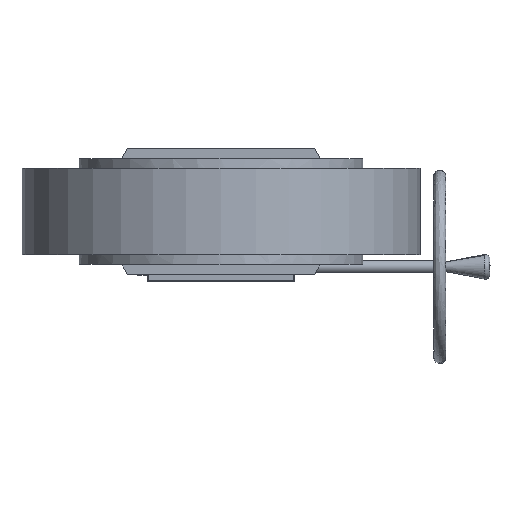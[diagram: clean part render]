
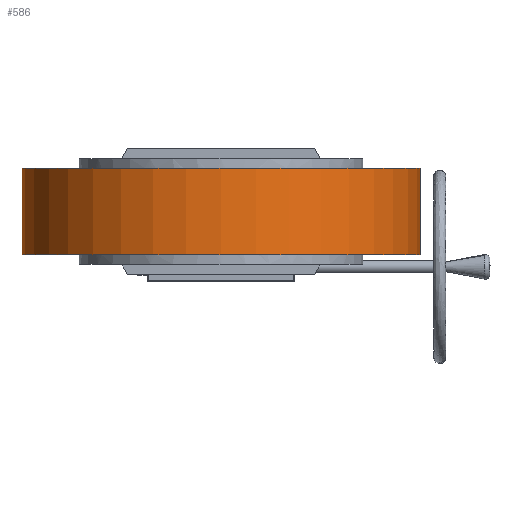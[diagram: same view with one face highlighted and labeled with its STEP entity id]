
A CAD part, front view. The second image highlights one B-rep face of the part: STEP entity #586.
In plain terms, the highlighted cylindrical face has radius 205.613 mm (diameter 411.226 mm), a partial arc.
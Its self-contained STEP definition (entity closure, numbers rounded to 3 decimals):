
#292 = DIRECTION ( 'NONE',  ( 0., 0., 1. ) ) ;
#293 = ORIENTED_EDGE ( 'NONE', *, *, #1024, .T. ) ;
#586 = ADVANCED_FACE ( 'NONE', ( #2008 ), #8651, .T. ) ;
#873 = CARTESIAN_POINT ( 'NONE',  ( 0., 0., 44.704 ) ) ;
#980 = CIRCLE ( 'NONE', #5316, 205.613 ) ;
#995 = VERTEX_POINT ( 'NONE', #13599 ) ;
#1024 = EDGE_CURVE ( 'NONE', #3940, #8512, #8133, .T. ) ;
#1174 = AXIS2_PLACEMENT_3D ( 'NONE', #7445, #5340, #12996 ) ;
#2008 = FACE_OUTER_BOUND ( 'NONE', #2449, .T. ) ;
#2290 = EDGE_CURVE ( 'NONE', #995, #5026, #10149, .T. ) ;
#2323 = VECTOR ( 'NONE', #13273, 1000. ) ;
#2449 = EDGE_LOOP ( 'NONE', ( #8465, #9219, #13920, #293 ) ) ;
#3534 = AXIS2_PLACEMENT_3D ( 'NONE', #873, #13962, #9420 ) ;
#3940 = VERTEX_POINT ( 'NONE', #14040 ) ;
#4007 = CARTESIAN_POINT ( 'NONE',  ( -102.489, 178.249, 44.704 ) ) ;
#4608 = CARTESIAN_POINT ( 'NONE',  ( -102.489, 178.249, -252.93 ) ) ;
#5026 = VERTEX_POINT ( 'NONE', #4007 ) ;
#5316 = AXIS2_PLACEMENT_3D ( 'NONE', #11367, #292, #12358 ) ;
#5340 = DIRECTION ( 'NONE',  ( 0., 0., -1. ) ) ;
#6760 = CARTESIAN_POINT ( 'NONE',  ( 102.489, 178.249, 44.704 ) ) ;
#6993 = EDGE_CURVE ( 'NONE', #5026, #8512, #7834, .T. ) ;
#7212 = CARTESIAN_POINT ( 'NONE',  ( 102.489, 178.249, -252.93 ) ) ;
#7445 = CARTESIAN_POINT ( 'NONE',  ( 0., 0., 44.704 ) ) ;
#7834 = CIRCLE ( 'NONE', #3534, 205.613 ) ;
#8133 = LINE ( 'NONE', #7212, #13344 ) ;
#8465 = ORIENTED_EDGE ( 'NONE', *, *, #6993, .F. ) ;
#8512 = VERTEX_POINT ( 'NONE', #6760 ) ;
#8651 = CYLINDRICAL_SURFACE ( 'NONE', #1174, 205.613 ) ;
#9219 = ORIENTED_EDGE ( 'NONE', *, *, #2290, .F. ) ;
#9270 = DIRECTION ( 'NONE',  ( 0., 0., 1. ) ) ;
#9420 = DIRECTION ( 'NONE',  ( 1., 0., 0. ) ) ;
#10149 = LINE ( 'NONE', #4608, #2323 ) ;
#10215 = EDGE_CURVE ( 'NONE', #995, #3940, #980, .T. ) ;
#11367 = CARTESIAN_POINT ( 'NONE',  ( 0., 0., -44.704 ) ) ;
#12358 = DIRECTION ( 'NONE',  ( 1., 0., 0. ) ) ;
#12996 = DIRECTION ( 'NONE',  ( -1., 0., 0. ) ) ;
#13273 = DIRECTION ( 'NONE',  ( 0., 0., 1. ) ) ;
#13344 = VECTOR ( 'NONE', #9270, 1000. ) ;
#13599 = CARTESIAN_POINT ( 'NONE',  ( -102.489, 178.249, -44.704 ) ) ;
#13920 = ORIENTED_EDGE ( 'NONE', *, *, #10215, .T. ) ;
#13962 = DIRECTION ( 'NONE',  ( 0., 0., 1. ) ) ;
#14040 = CARTESIAN_POINT ( 'NONE',  ( 102.489, 178.249, -44.704 ) ) ;
